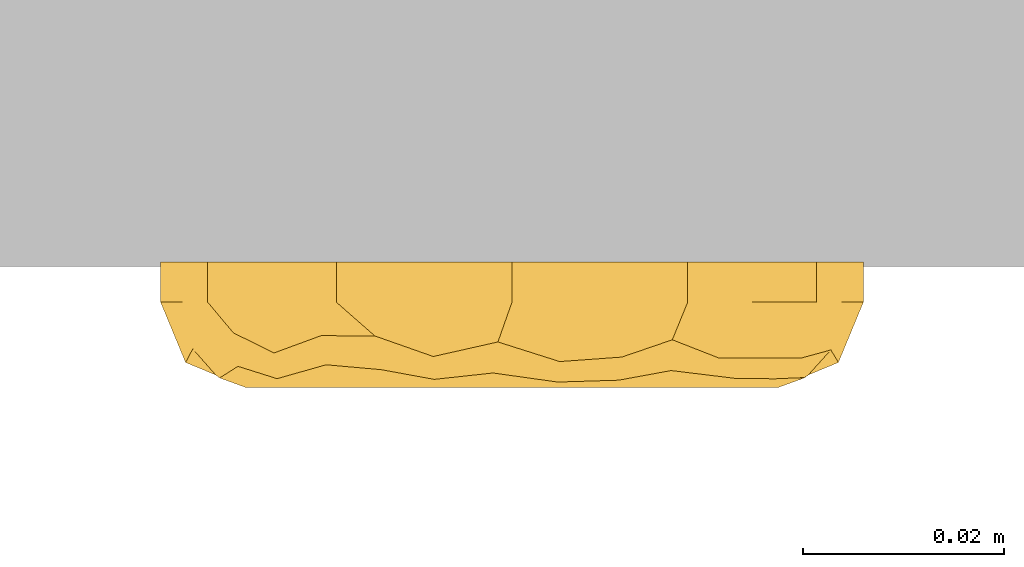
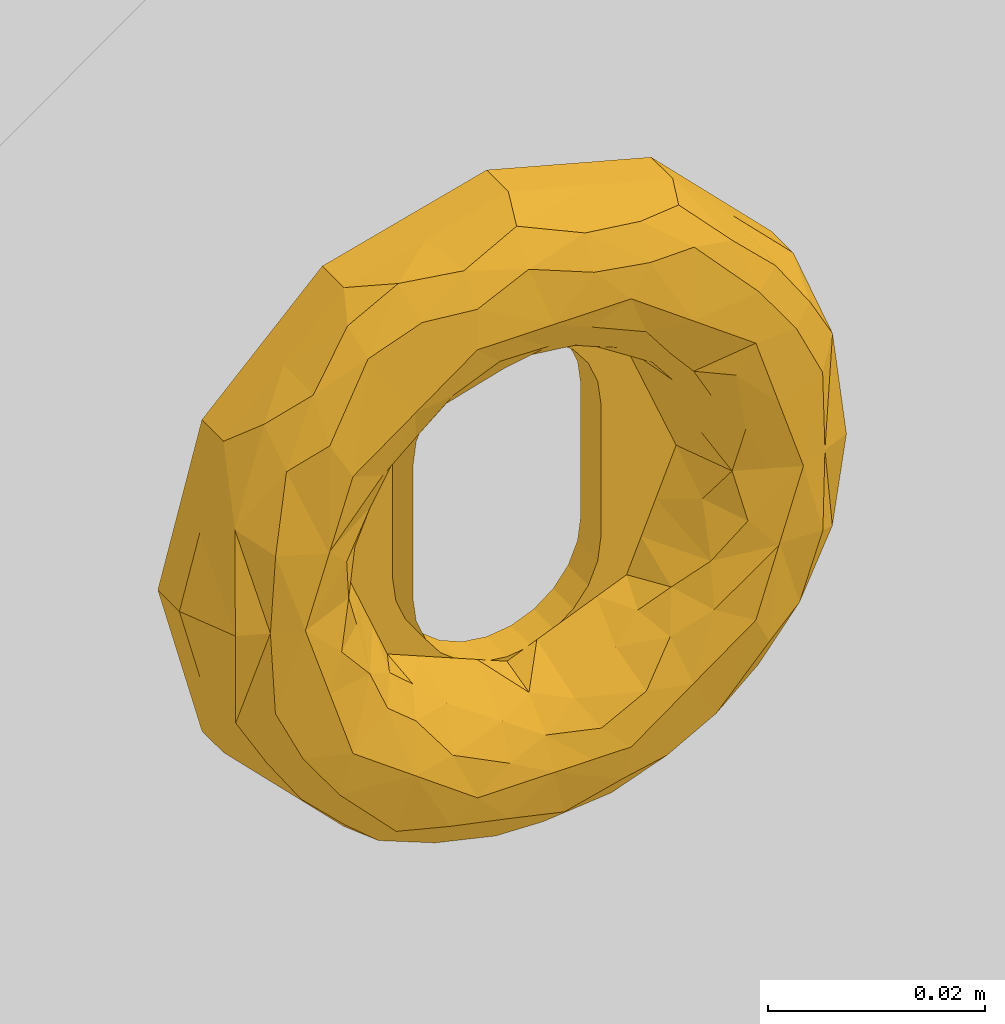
# One storey, part 2 of 2: 1 door.
"""IFC2X3 building model written with IfcOpenShell, lengths in feet."""

from ifc_helpers import new_model, entity, si_unit, converted_unit, derived_unit, direction, frame, origin, place, context, subcontext, project, spatial, face_set, surface_model, source, transform, mapped, type_object, type_shapes, element, save


model = new_model("IFC2X3")

# Units and contexts
model_context = context("Model", 3, precision=0.0001, world=origin(), true_north=direction((6.12303176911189e-17, 1.0)))
body_context = subcontext(model_context, "Body", "Model", "MODEL_VIEW")
ifc_project = project(units=[converted_unit("LENGTHUNIT", "FOOT", entity("IfcRatioMeasure", 0.3048), si_unit("LENGTHUNIT", "METRE"), dimensions=[1, 0, 0, 0, 0, 0, 0]), converted_unit("AREAUNIT", "SQUARE FOOT", entity("IfcRatioMeasure", 0.09290304), si_unit("AREAUNIT", "SQUARE_METRE"), dimensions=[2, 0, 0, 0, 0, 0, 0]), converted_unit("VOLUMEUNIT", "CUBIC FOOT", entity("IfcRatioMeasure", 0.028316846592), si_unit("VOLUMEUNIT", "CUBIC_METRE"), dimensions=[3, 0, 0, 0, 0, 0, 0]), converted_unit("PLANEANGLEUNIT", "DEGREE", entity("IfcRatioMeasure", 0.0174532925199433), si_unit("PLANEANGLEUNIT", "RADIAN"), dimensions=[0, 0, 0, 0, 0, 0, 0]), si_unit("MASSUNIT", "GRAM", prefix="KILO"), derived_unit("MASSDENSITYUNIT", [(si_unit("MASSUNIT", "GRAM", prefix="KILO"), 1), (si_unit("LENGTHUNIT", "METRE"), -3)]), si_unit("TIMEUNIT", "SECOND"), si_unit("FREQUENCYUNIT", "HERTZ"), si_unit("THERMODYNAMICTEMPERATUREUNIT", "DEGREE_CELSIUS"), derived_unit("THERMALTRANSMITTANCEUNIT", [(si_unit("MASSUNIT", "GRAM", prefix="KILO"), 1), (si_unit("THERMODYNAMICTEMPERATUREUNIT", "KELVIN"), -1), (si_unit("TIMEUNIT", "SECOND"), -3)]), derived_unit("VOLUMETRICFLOWRATEUNIT", [(si_unit("LENGTHUNIT", "METRE"), 3), (si_unit("TIMEUNIT", "SECOND"), -1)]), si_unit("ELECTRICCURRENTUNIT", "AMPERE"), si_unit("ELECTRICVOLTAGEUNIT", "VOLT"), si_unit("POWERUNIT", "WATT"), si_unit("FORCEUNIT", "NEWTON"), si_unit("ILLUMINANCEUNIT", "LUX"), si_unit("LUMINOUSFLUXUNIT", "LUMEN"), si_unit("LUMINOUSINTENSITYUNIT", "CANDELA"), derived_unit("USERDEFINED", [(si_unit("MASSUNIT", "GRAM", prefix="KILO"), -1), (si_unit("LENGTHUNIT", "METRE"), -2), (si_unit("TIMEUNIT", "SECOND"), 3), (si_unit("LUMINOUSFLUXUNIT", "LUMEN"), 1)]), derived_unit("LINEARVELOCITYUNIT", [(si_unit("LENGTHUNIT", "METRE"), 1), (si_unit("TIMEUNIT", "SECOND"), -1)]), si_unit("PRESSUREUNIT", "PASCAL"), derived_unit("USERDEFINED", [(si_unit("LENGTHUNIT", "METRE"), -2), (si_unit("MASSUNIT", "GRAM", prefix="KILO"), 1), (si_unit("TIMEUNIT", "SECOND"), -2)])], contexts=[model_context])

# Site, building, storey
site_placement = place(None, origin())
site = spatial("IfcSite", under=ifc_project, at=site_placement, Name="Default", CompositionType="ELEMENT")
building_placement = place(site_placement, origin())
building = spatial("IfcBuilding", under=site, at=building_placement, CompositionType="ELEMENT")
storey_placement = place(building_placement, origin())
storey = spatial("IfcBuildingStorey", under=building, at=storey_placement, Name="Level 1", CompositionType="ELEMENT", Elevation=0.0)

# Door
door_style = type_object("IfcDoorStyle", Name="dline_Hardware_TomDixonCollection_Escutcheons_Oval_Half_Solid_3.25", ConstructionType="NOTDEFINED", OperationType="DOUBLE_SWING_RIGHT", ParameterTakesPrecedence=False, Sizeable=False)
shared_shape = source(origin(), body_context, "Body", "SurfaceModel", [
    surface_model("IfcFaceBasedSurfaceModel", [(-0.114829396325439, 0.0, -0.00161922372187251), (-0.0994451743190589, 0.0574146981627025, -0.00161922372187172), (-0.0574146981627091, 0.0994451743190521, -0.00161922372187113), (0.0, 0.114829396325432, -0.00161922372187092), (0.0574146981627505, 0.099445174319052, -0.00161922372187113), (0.0994451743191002, 0.0574146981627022, -0.00161922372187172), (0.11482939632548, 0.0, -0.00161922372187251), (0.0328083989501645, 0.0, -0.00161922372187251), (0.0328083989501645, 0.0246062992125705, -0.00161922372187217), (0.0316904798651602, 0.0330977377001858, -0.00161922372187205), (0.0284129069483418, 0.041010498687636, -0.00161922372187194), (0.0231990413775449, 0.0478053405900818, -0.00161922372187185), (0.0164041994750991, 0.0530192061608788, -0.00161922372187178), (0.00849143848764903, 0.0562967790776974, -0.00161922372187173), (0.0, 0.0574146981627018, -0.00161922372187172), (-0.00849143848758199, 0.0562967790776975, -0.00161922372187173), (-0.0164041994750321, 0.053019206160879, -0.00161922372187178), (-0.0231990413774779, 0.047805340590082, -0.00161922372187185), (-0.0284129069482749, 0.0410104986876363, -0.00161922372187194), (-0.0316904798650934, 0.0330977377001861, -0.00161922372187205), (-0.0328083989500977, 0.0246062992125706, -0.00161922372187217), (-0.0328083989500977, 0.0, -0.00161922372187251), (0.0994451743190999, -0.0574146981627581, -0.0016192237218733), (0.0574146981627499, -0.0994451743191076, -0.00161922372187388), (0.0, -0.114829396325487, -0.0016192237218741), (-0.0574146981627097, -0.099445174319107, -0.00161922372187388), (-0.0994451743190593, -0.0574146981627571, -0.0016192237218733), (-0.0328083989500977, -0.0246062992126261, -0.00161922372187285), (-0.0316904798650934, -0.0330977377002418, -0.00161922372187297), (-0.0284129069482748, -0.0410104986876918, -0.00161922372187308), (-0.0231990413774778, -0.0478053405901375, -0.00161922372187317), (-0.0164041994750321, -0.0530192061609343, -0.00161922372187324), (-0.00849143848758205, -0.0562967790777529, -0.00161922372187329), (0.0, -0.0574146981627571, -0.0016192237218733), (0.00849143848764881, -0.0562967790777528, -0.00161922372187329), (0.0164041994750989, -0.0530192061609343, -0.00161922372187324), (0.0231990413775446, -0.0478053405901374, -0.00161922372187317), (0.0284129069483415, -0.0410104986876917, -0.00161922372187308), (0.0316904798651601, -0.0330977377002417, -0.00161922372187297), (0.0328083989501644, -0.0246062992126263, -0.00161922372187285), (0.103991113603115, 0.0404490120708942, 0.0114829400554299), (0.107137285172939, 0.0287073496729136, -0.0016192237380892), (0.109410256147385, 0.0202245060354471, 0.0114829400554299), (-0.107137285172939, 0.0287073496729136, 0.0114829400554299), (-0.0994451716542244, 0.0574146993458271, 0.0114829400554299), (-0.107137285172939, 0.0287073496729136, -0.0016192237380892), (0.0784299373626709, 0.0784299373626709, 0.0114829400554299), (0.0994451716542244, 0.0574146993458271, 0.0114829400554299), (0.0784299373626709, 0.0784299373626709, -0.0016192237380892), (0.114829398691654, 0.0, 0.0114829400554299), (0.0574146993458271, 0.0994451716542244, 0.0114829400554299), (0.0287073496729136, 0.107137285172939, -0.0016192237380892), (0.0, 0.114829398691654, 0.0114829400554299), (0.0287073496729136, 0.107137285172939, 0.0114829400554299), (-0.0287073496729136, 0.107137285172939, 0.0114829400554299), (-0.0287073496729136, 0.107137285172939, -0.0016192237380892), (-0.0784299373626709, 0.0784299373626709, -0.0016192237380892), (-0.0784299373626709, 0.0784299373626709, 0.0114829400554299), (-0.0574146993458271, 0.0994451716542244, 0.0114829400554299), (-0.114829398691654, 0.0, 0.0114829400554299), (-0.103991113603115, -0.0404490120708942, 0.0114829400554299), (-0.107137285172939, -0.0287073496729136, -0.0016192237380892), (-0.109410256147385, -0.0202245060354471, 0.0114829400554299), (0.107137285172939, -0.0287073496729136, 0.0114829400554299), (0.0994451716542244, -0.0574146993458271, 0.0114829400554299), (0.107137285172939, -0.0287073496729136, -0.0016192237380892), (-0.0784299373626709, -0.0784299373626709, 0.0114829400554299), (-0.0994451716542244, -0.0574146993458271, 0.0114829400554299), (-0.0784299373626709, -0.0784299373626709, -0.0016192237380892), (-0.0574146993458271, -0.0994451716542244, 0.0114829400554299), (-0.0287073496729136, -0.107137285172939, -0.0016192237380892), (0.0, -0.114829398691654, 0.0114829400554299), (-0.0287073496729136, -0.107137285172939, 0.0114829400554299), (0.0287073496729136, -0.107137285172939, 0.0114829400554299), (0.0287073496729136, -0.107137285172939, -0.0016192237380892), (0.0784299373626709, -0.0784299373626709, -0.0016192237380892), (0.0784299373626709, -0.0784299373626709, 0.0114829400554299), (0.0574146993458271, -0.0994451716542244, 0.0114829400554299), (0.104185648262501, 0.0354321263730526, 0.0271007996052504), (0.10769384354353, 0.0266302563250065, 0.0114829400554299), (-0.00460470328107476, 0.111512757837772, 0.0244946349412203), (-0.0257417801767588, 0.105345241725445, 0.029240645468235), (-0.00619756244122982, 0.102307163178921, 0.0346305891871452), (0.0358880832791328, 0.102162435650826, 0.0294351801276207), (0.0155927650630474, 0.105819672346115, 0.0308965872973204), (0.095525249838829, 0.0295866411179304, 0.0361229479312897), (0.0948657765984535, 0.0518237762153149, 0.0296521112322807), (0.086100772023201, 0.0492820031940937, 0.0365281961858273), (-0.0607702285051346, 0.086708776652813, 0.0319500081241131), (-0.0427446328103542, 0.0948088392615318, 0.0335454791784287), (-0.0447977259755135, 0.103246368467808, 0.0225341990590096), (0.106661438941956, 0.0, 0.0312021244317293), (0.0676873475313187, 0.0841498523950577, 0.0297723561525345), (0.0520024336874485, 0.0896197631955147, 0.0338375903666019), (0.0733057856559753, 0.0671199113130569, 0.0364366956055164), (0.0703377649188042, 0.051103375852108, 0.0393700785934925), (0.0523817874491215, 0.0989614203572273, 0.0237841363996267), (0.0348720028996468, 0.0918425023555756, 0.036979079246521), (-0.0623906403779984, 0.093721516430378, 0.0224341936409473), (0.0968018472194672, 0.0, 0.0352861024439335), (0.0486022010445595, 0.0668951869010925, 0.0393700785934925), (-0.104311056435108, 0.0357333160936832, 0.026776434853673), (-0.0895434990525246, 0.0554412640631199, 0.0324601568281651), (-0.0910296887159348, 0.0668764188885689, 0.021533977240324), (-0.0253979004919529, 0.0954931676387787, 0.0367174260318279), (-0.0486022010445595, 0.0668951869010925, 0.0393700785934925), (-0.0777445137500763, 0.0769081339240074, 0.0280735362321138), (-0.0767557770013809, 0.0629682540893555, 0.0364925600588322), (-0.0955414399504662, 0.0286489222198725, 0.0362579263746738), (-0.0968018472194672, 0.0, 0.0352861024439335), (-0.10769384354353, 0.0266302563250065, 0.0114829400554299), (-0.106661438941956, 0.0, 0.0312021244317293), (0.0149465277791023, 0.0955802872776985, 0.0375915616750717), (-0.0786400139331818, 0.025551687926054, 0.0393700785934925), (-0.0869422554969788, 0.0, 0.0393700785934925), (0.0869422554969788, 0.0, 0.0393700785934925), (0.0786400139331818, 0.025551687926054, 0.0393700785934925), (0.0827525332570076, 0.069546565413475, 0.0296548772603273), (0.0268666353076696, 0.0826869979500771, 0.0393700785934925), (0.0, 0.0826869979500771, 0.0393700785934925), (-0.0703377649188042, 0.051103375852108, 0.0393700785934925), (-0.0268666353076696, 0.0826869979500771, 0.0393700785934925), (-0.104185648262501, -0.0354321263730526, 0.0271007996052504), (-0.10769384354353, -0.0266302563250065, 0.0114829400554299), (0.0895434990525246, -0.0554412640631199, 0.0324601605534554), (0.0786400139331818, -0.025551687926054, 0.0393700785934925), (0.0767557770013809, -0.0629682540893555, 0.0364925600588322), (0.10769384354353, -0.0266302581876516, 0.0114829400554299), (0.104311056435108, -0.0357333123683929, 0.026776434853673), (-0.095525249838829, -0.0295866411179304, 0.0361229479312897), (-0.0948657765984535, -0.0518237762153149, 0.0296521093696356), (-0.086100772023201, -0.0492820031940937, 0.0365281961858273), (-0.0486022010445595, -0.0668951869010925, 0.0393700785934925), (-0.0703377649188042, -0.051103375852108, 0.0393700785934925), (-0.0733057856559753, -0.0671199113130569, 0.0364366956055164), (-0.0358880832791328, -0.102162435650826, 0.0294351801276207), (-0.0155927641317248, -0.105819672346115, 0.0308965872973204), (-0.0676873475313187, -0.0841498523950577, 0.0297723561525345), (-0.0520024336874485, -0.0896197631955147, 0.0338375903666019), (-0.0348720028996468, -0.0918425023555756, 0.036979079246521), (0.00460470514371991, -0.111512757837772, 0.0244946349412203), (0.0910296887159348, -0.0668764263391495, 0.021533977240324), (0.0607702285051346, -0.0867087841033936, 0.0319500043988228), (0.0447977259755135, -0.103246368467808, 0.0225341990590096), (0.0623906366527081, -0.093721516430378, 0.0224341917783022), (0.0427446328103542, -0.0948088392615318, 0.0335454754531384), (0.025397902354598, -0.0954931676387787, 0.0367174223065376), (0.0257417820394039, -0.105345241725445, 0.0292406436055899), (0.0777445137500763, -0.0769081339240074, 0.0280735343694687), (0.0955414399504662, -0.0286489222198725, 0.0362579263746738), (0.00619756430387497, -0.102307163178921, 0.0346305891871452), (-0.0149465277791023, -0.0955802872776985, 0.0375915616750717), (0.0486022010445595, -0.0668951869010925, 0.0393700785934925), (-0.0523817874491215, -0.0989614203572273, 0.0237841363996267), (-0.0786400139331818, -0.025551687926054, 0.0393700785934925), (-0.0827525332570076, -0.069546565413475, 0.0296548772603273), (-0.0268666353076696, -0.0826869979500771, 0.0393700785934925), (0.0, -0.0826869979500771, 0.0393700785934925), (0.0703377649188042, -0.051103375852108, 0.0393700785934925), (0.0268666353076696, -0.0826869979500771, 0.0393700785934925), (0.0595088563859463, 0.030643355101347, 0.0309099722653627), (0.0784134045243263, 0.0262491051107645, 0.0393700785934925), (0.0484802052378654, 0.0383875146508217, 0.0236265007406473), (0.044356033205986, 0.052351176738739, 0.0325026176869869), (0.0548929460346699, 0.0432777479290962, 0.0335578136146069), (-0.0606496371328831, 0.0123952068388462, 0.0237607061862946), (-0.0519581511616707, 0.0171627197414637, 0.0106627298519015), (-0.0590671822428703, 0.0, 0.0106627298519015), (0.0724360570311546, 0.0148040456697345, 0.0361499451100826), (0.06114686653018, 0.0148187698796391, 0.0256418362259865), (0.0669351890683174, 0.0, 0.0309099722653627), (0.0590671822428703, 0.0, 0.0106627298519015), (-0.0104417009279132, 0.0547420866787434, 0.0106627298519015), (-0.0208834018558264, 0.0504169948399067, 0.0106627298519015), (-0.0123898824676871, 0.0651603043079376, 0.0302642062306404), (0.0519581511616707, 0.0171627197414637, 0.0106627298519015), (0.0337963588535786, 0.0663290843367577, 0.0364119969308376), (-0.0578487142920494, 0.0450543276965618, 0.0358186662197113), (-0.0784134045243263, 0.0262491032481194, 0.0393700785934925), (0.0468624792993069, 0.0294647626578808, 0.0106627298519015), (-0.0595088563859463, 0.030643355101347, 0.0309099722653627), (-0.0700549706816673, 0.0169776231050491, 0.035081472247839), (-0.0337963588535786, 0.0663290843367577, 0.0364119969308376), (-0.029567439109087, 0.055287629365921, 0.0252624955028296), (-0.0669351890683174, 0.0, 0.0309099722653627), (-0.044356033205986, 0.052351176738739, 0.0325026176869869), (-0.0487650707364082, 0.039685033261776, 0.025566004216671), (0.0417668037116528, 0.0417668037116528, 0.0106627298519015), (0.0394373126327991, 0.0467448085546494, 0.0221082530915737), (0.0143742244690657, 0.0754772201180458, 0.0374735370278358), (0.0295674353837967, 0.0552876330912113, 0.0252624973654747), (0.0208834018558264, 0.0504169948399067, 0.0106627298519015), (0.0129081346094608, 0.0648935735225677, 0.030083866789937), (-0.0313251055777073, 0.0460918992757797, 0.0106627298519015), (-0.0390795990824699, 0.0469961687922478, 0.0220180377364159), (0.000194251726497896, 0.0621994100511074, 0.0243475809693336), (0.000380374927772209, 0.0715737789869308, 0.0347538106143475), (-0.017739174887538, 0.0738889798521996, 0.0371287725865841), (-0.0134333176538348, 0.0826869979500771, 0.0393700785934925), (0.0104417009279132, 0.0547420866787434, 0.0106627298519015), (0.0313251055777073, 0.0460918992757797, 0.0106627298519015), (-0.0417668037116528, 0.0417668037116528, 0.0106627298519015), (-0.0468624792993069, 0.0294647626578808, 0.0106627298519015), (0.0, 0.0590671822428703, 0.0106627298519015), (-0.0784134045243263, -0.0262491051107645, 0.0393700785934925), (-0.0695305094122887, -0.0168505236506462, 0.0347329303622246), (-0.0647844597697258, -0.0398912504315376, 0.0371681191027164), (-0.0295674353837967, -0.0552876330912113, 0.0252624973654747), (-0.0435471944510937, -0.0435946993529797, 0.0231622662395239), (-0.0313251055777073, -0.0460918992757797, 0.0106627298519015), (-0.0208834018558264, -0.0504169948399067, 0.0106627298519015), (-0.0129081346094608, -0.0648935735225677, 0.0300838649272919), (-0.0443560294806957, -0.0523511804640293, 0.0325026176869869), (-0.0530390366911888, -0.042167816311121, 0.0317237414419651), (-0.0743755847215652, -0.0386762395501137, 0.0393700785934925), (-0.0417668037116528, -0.0417668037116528, 0.0106627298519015), (-0.0510150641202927, -0.0340855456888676, 0.0225713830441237), (0.0606496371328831, -0.0123952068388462, 0.0237607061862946), (0.0519581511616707, -0.0171627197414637, 0.0106627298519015), (-0.0337963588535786, -0.0663290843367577, 0.0364119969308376), (0.044356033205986, -0.052351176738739, 0.0325026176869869), (0.0337963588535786, -0.0663290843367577, 0.0364119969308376), (0.0578487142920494, -0.0450543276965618, 0.0358186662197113), (0.0784134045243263, -0.0262491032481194, 0.0393700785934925), (0.0595088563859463, -0.030643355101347, 0.0309099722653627), (0.0700549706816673, -0.0169776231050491, 0.035081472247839), (-0.060554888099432, -0.0119150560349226, 0.0233710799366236), (0.0123898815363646, -0.0651603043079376, 0.0302642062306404), (0.0295674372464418, -0.055287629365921, 0.0252624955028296), (-0.0776933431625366, 0.0, 0.0354591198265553), (0.0487650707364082, -0.039685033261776, 0.0255660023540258), (-0.0143742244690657, -0.0754772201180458, 0.0374735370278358), (0.0104417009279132, -0.0547420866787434, 0.0106627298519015), (0.0208834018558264, -0.0504169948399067, 0.0106627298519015), (0.0313251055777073, -0.0460918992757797, 0.0106627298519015), (0.0390795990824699, -0.0469961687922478, 0.0220180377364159), (-0.000194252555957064, -0.0621994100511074, 0.0243475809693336), (-0.000380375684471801, -0.0715737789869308, 0.0347538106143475), (0.017739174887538, -0.0738889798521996, 0.0371287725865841), (0.0134333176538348, -0.0826869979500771, 0.0393700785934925), (-0.0104417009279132, -0.0547420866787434, 0.0106627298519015), (-0.0519581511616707, -0.0171627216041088, 0.0106627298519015), (-0.059508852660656, -0.0306433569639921, 0.0309099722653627), (-0.0468624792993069, -0.0294647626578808, 0.0106627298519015), (0.0417668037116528, -0.0417668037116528, 0.0106627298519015), (0.0468624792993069, -0.0294647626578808, 0.0106627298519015), (0.0, -0.0590671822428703, 0.0106627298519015), (0.0328083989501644, 0.0, 0.0106627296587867), (0.0328083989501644, 0.0246062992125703, 0.010662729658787), (0.0316904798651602, 0.0330977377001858, 0.0106627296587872), (0.0284129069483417, 0.0410104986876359, 0.0106627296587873), (0.0231990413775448, 0.0478053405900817, 0.0106627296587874), (0.0164041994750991, 0.0530192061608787, 0.0106627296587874), (0.008491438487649, 0.0562967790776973, 0.0106627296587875), (0.0, 0.0574146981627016, 0.0106627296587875), (-0.00849143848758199, 0.0562967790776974, 0.0106627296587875), (-0.0164041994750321, 0.0530192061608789, 0.0106627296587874), (-0.0231990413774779, 0.0478053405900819, 0.0106627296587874), (-0.0284129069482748, 0.0410104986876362, 0.0106627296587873), (-0.0316904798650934, 0.0330977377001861, 0.0106627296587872), (-0.0328083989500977, 0.0246062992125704, 0.010662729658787), (-0.0328083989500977, 0.0, 0.0106627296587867), (-0.0328083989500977, -0.0246062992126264, 0.0106627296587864), (-0.0316904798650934, -0.0330977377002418, 0.0106627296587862), (-0.0284129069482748, -0.0410104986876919, 0.0106627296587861), (-0.0231990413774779, -0.0478053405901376, 0.010662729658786), (-0.0164041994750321, -0.0530192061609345, 0.010662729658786), (-0.00849143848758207, -0.056296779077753, 0.0106627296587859), (0.0, -0.0574146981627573, 0.0106627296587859), (0.00849143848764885, -0.056296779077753, 0.0106627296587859), (0.0164041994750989, -0.0530192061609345, 0.010662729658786), (0.0231990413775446, -0.0478053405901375, 0.010662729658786), (0.0284129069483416, -0.0410104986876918, 0.0106627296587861), (0.0316904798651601, -0.0330977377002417, 0.0106627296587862), (0.0328083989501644, -0.0246062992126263, 0.0106627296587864)], [face_set([[[0, 1, 2, 3, 4, 5, 6, 7, 8, 9, 10, 11, 12, 13, 14, 15, 16, 17, 18, 19, 20, 21]], [[6, 22, 23, 24, 25, 26, 0, 21, 27, 28, 29, 30, 31, 32, 33, 34, 35, 36, 37, 38, 39, 7]], [[5, 40, 41]], [[41, 40, 42]], [[43, 44, 1, 45]], [[46, 47, 5, 48]], [[6, 41, 42]], [[42, 49, 6]], [[50, 46, 48, 4]], [[51, 3, 52, 53]], [[5, 47, 40]], [[4, 51, 53, 50]], [[54, 52, 3, 55]], [[56, 1, 44, 57]], [[2, 56, 57, 58]], [[45, 0, 59, 43]], [[55, 2, 58, 54]], [[26, 60, 61]], [[61, 60, 62]], [[63, 64, 22, 65]], [[66, 67, 26, 68]], [[0, 61, 62]], [[62, 59, 0]], [[69, 66, 68, 25]], [[70, 24, 71, 72]], [[26, 67, 60]], [[25, 70, 72, 69]], [[73, 71, 24, 74]], [[75, 22, 64, 76]], [[23, 75, 76, 77]], [[65, 6, 49, 63]], [[74, 23, 77, 73]], [[47, 78, 79]], [[80, 81, 82]], [[83, 53, 84]], [[85, 86, 87]], [[88, 89, 90]], [[78, 91, 79]], [[92, 93, 94]], [[78, 86, 85]], [[87, 94, 95]], [[96, 93, 92]], [[93, 83, 97]], [[80, 54, 81]], [[80, 84, 53]], [[91, 49, 79]], [[90, 98, 88]], [[85, 99, 78]], [[100, 95, 94]], [[101, 102, 103]], [[86, 47, 46]], [[89, 104, 81]], [[104, 89, 105]], [[106, 107, 88]], [[108, 101, 109]], [[50, 92, 46]], [[110, 111, 101]], [[84, 112, 97]], [[102, 113, 107]], [[44, 103, 57]], [[101, 44, 110]], [[110, 59, 111]], [[109, 114, 108]], [[99, 85, 115]], [[99, 91, 78]], [[47, 86, 78]], [[87, 95, 116]], [[116, 115, 85]], [[87, 86, 117]], [[87, 117, 94]], [[85, 87, 116]], [[92, 94, 117]], [[100, 94, 93]], [[92, 117, 46]], [[96, 92, 50]], [[52, 80, 53]], [[83, 93, 96]], [[96, 50, 53]], [[53, 83, 96]], [[97, 100, 93]], [[112, 84, 82]], [[84, 97, 83]], [[100, 97, 118]], [[104, 119, 82]], [[118, 97, 112]], [[119, 118, 112]], [[104, 82, 81]], [[119, 112, 82]], [[84, 80, 82]], [[58, 90, 54]], [[88, 120, 105]], [[119, 104, 121]], [[89, 81, 90]], [[121, 104, 105]], [[105, 89, 88]], [[80, 52, 54]], [[54, 90, 81]], [[90, 58, 98]], [[103, 102, 106]], [[106, 88, 98]], [[98, 58, 57]], [[57, 106, 98]], [[107, 106, 102]], [[57, 103, 106]], [[101, 103, 44]], [[86, 46, 117]], [[88, 107, 120]], [[102, 108, 113]], [[113, 120, 107]], [[101, 111, 109]], [[113, 108, 114]], [[101, 108, 102]], [[67, 122, 123]], [[124, 125, 126]], [[127, 91, 128]], [[129, 130, 131]], [[132, 133, 134]], [[122, 111, 123]], [[135, 72, 136]], [[122, 130, 129]], [[131, 134, 133]], [[137, 138, 134]], [[138, 135, 139]], [[130, 67, 66]], [[140, 136, 72]], [[129, 109, 122]], [[128, 124, 141]], [[111, 59, 123]], [[64, 141, 76]], [[142, 143, 144]], [[69, 137, 66]], [[145, 146, 147]], [[140, 73, 147]], [[148, 126, 142]], [[149, 128, 99]], [[140, 147, 150]], [[142, 145, 143]], [[136, 151, 139]], [[146, 145, 152]], [[153, 138, 137]], [[128, 64, 127]], [[127, 49, 91]], [[99, 115, 149]], [[109, 129, 114]], [[109, 111, 122]], [[67, 130, 122]], [[131, 133, 154]], [[154, 114, 129]], [[131, 130, 155]], [[131, 155, 134]], [[129, 131, 154]], [[137, 134, 155]], [[132, 134, 138]], [[137, 155, 66]], [[153, 137, 69]], [[71, 140, 72]], [[135, 138, 153]], [[153, 69, 72]], [[72, 135, 153]], [[139, 132, 138]], [[151, 136, 150]], [[136, 139, 135]], [[132, 139, 156]], [[146, 157, 150]], [[156, 139, 151]], [[157, 156, 151]], [[146, 150, 147]], [[157, 151, 150]], [[136, 140, 150]], [[77, 143, 73]], [[142, 158, 152]], [[157, 146, 159]], [[145, 147, 143]], [[159, 146, 152]], [[152, 145, 142]], [[140, 71, 73]], [[73, 143, 147]], [[143, 77, 144]], [[141, 124, 148]], [[148, 142, 144]], [[144, 77, 76]], [[76, 148, 144]], [[126, 148, 124]], [[76, 141, 148]], [[128, 141, 64]], [[130, 66, 155]], [[142, 126, 158]], [[124, 149, 125]], [[125, 158, 126]], [[128, 91, 99]], [[125, 149, 115]], [[128, 149, 124]], [[160, 95, 161]], [[162, 163, 164]], [[160, 162, 164]], [[165, 166, 167]], [[160, 168, 169]], [[170, 171, 169]], [[172, 173, 174]], [[175, 160, 169]], [[176, 100, 163]], [[163, 100, 164]], [[177, 178, 120]], [[160, 179, 162]], [[180, 166, 165]], [[181, 180, 165]], [[178, 177, 180]], [[182, 174, 183]], [[181, 184, 114]], [[185, 186, 177]], [[178, 180, 181]], [[168, 161, 115]], [[187, 188, 162]], [[189, 176, 118]], [[185, 105, 182]], [[190, 191, 192]], [[183, 193, 194]], [[163, 190, 176]], [[195, 174, 196]], [[105, 121, 182]], [[195, 172, 174]], [[196, 119, 189]], [[196, 197, 198]], [[118, 100, 176]], [[192, 199, 195]], [[176, 190, 192]], [[188, 200, 190]], [[185, 182, 183]], [[105, 177, 120]], [[197, 174, 182]], [[186, 185, 194]], [[187, 162, 179]], [[160, 175, 179]], [[163, 162, 188]], [[164, 95, 160]], [[95, 164, 100]], [[188, 190, 163]], [[175, 169, 171]], [[191, 190, 200]], [[188, 187, 200]], [[170, 169, 168]], [[170, 168, 115]], [[161, 168, 160]], [[178, 181, 114]], [[184, 181, 165]], [[184, 165, 167]], [[201, 202, 186]], [[202, 166, 180]], [[180, 177, 186]], [[185, 177, 105]], [[180, 186, 202]], [[201, 186, 194]], [[183, 173, 193]], [[194, 185, 183]], [[193, 201, 194]], [[203, 195, 199]], [[192, 191, 199]], [[192, 195, 196]], [[192, 196, 189]], [[198, 119, 196]], [[121, 198, 197]], [[121, 197, 182]], [[174, 197, 196]], [[192, 189, 176]], [[118, 189, 119]], [[183, 174, 173]], [[172, 195, 203]], [[204, 205, 206]], [[207, 208, 209]], [[207, 210, 211]], [[208, 212, 213]], [[133, 214, 206]], [[215, 208, 216]], [[217, 218, 171]], [[214, 204, 206]], [[219, 132, 212]], [[220, 152, 221]], [[222, 223, 158]], [[132, 133, 212]], [[224, 218, 217]], [[225, 224, 217]], [[205, 184, 226]], [[221, 227, 228]], [[204, 114, 229]], [[220, 230, 222]], [[223, 224, 225]], [[226, 184, 167]], [[225, 170, 115]], [[231, 219, 156]], [[232, 233, 227]], [[223, 222, 224]], [[228, 234, 235]], [[212, 207, 219]], [[236, 227, 237]], [[152, 159, 221]], [[236, 232, 227]], [[237, 157, 231]], [[237, 238, 239]], [[156, 132, 219]], [[211, 240, 236]], [[219, 207, 211]], [[208, 215, 209]], [[220, 221, 228]], [[152, 222, 158]], [[238, 227, 221]], [[230, 220, 235]], [[209, 210, 207]], [[229, 205, 204]], [[205, 229, 184]], [[241, 242, 226]], [[205, 226, 242]], [[241, 226, 167]], [[242, 213, 206]], [[212, 133, 213]], [[242, 206, 205]], [[206, 213, 133]], [[242, 216, 213]], [[212, 208, 207]], [[241, 216, 242]], [[243, 215, 216]], [[213, 216, 208]], [[243, 216, 241]], [[223, 225, 115]], [[170, 225, 217]], [[170, 217, 171]], [[244, 245, 230]], [[245, 218, 224]], [[224, 222, 230]], [[220, 222, 152]], [[224, 230, 245]], [[244, 230, 235]], [[228, 233, 234]], [[235, 220, 228]], [[234, 244, 235]], [[246, 236, 240]], [[211, 210, 240]], [[211, 236, 237]], [[211, 237, 231]], [[239, 157, 237]], [[159, 239, 238]], [[159, 238, 221]], [[227, 238, 237]], [[211, 231, 219]], [[156, 231, 157]], [[228, 227, 233]], [[232, 236, 246]], [[171, 247, 248, 249, 250, 251, 252, 253, 254, 255, 256, 257, 258, 259, 260, 261, 167, 201, 203, 187]], [[167, 261, 262, 263, 264, 265, 266, 267, 268, 269, 270, 271, 272, 273, 274, 247, 171, 244, 246, 215]], [[248, 247, 274, 39, 7, 8]], [[39, 274, 273, 38]], [[38, 273, 272, 37]], [[36, 271, 270, 35]], [[37, 272, 271, 36]], [[35, 270, 269, 34]], [[268, 33, 34, 269]], [[33, 268, 267, 32]], [[32, 267, 266, 31]], [[30, 265, 264, 29]], [[31, 266, 265, 30]], [[29, 264, 263, 28]], [[262, 27, 28, 263]], [[262, 261, 260, 20, 21, 27]], [[20, 260, 259, 19]], [[19, 259, 258, 18]], [[17, 257, 256, 16]], [[18, 258, 257, 17]], [[16, 256, 255, 15]], [[254, 14, 15, 255]], [[14, 254, 253, 13]], [[13, 253, 252, 12]], [[11, 251, 250, 10]], [[12, 252, 251, 11]], [[10, 250, 249, 9]], [[248, 8, 9, 249]]])]),
])
type_shapes(door_style, [shared_shape])
door_placement = place(storey_placement, frame((-3.60517387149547, 8.4557659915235, 3.64555762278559), z_axis=(0.0, -1.0, 0.0), x_axis=(-1.0, 0.0, 0.0)))
element("IfcDoor", 1, at=door_placement, inside=storey, type_object=door_style, Name="12.9005.02.060:dline_Hardware_TomDixonCollection_Escutcheons_Oval_Half_Solid_3.25", ObjectType="12.9005.02.060:dline_Hardware_TomDixonCollection_Escutcheons_Oval_Half_Solid_3.25", OverallHeight=0.402701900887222, OverallWidth=0.442913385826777, context=body_context, shape_type="MappedRepresentation", body=[
    mapped(shared_shape, transform((0.0, 0.0, 0.0), scale=1.0)),
])

save(model, "model.ifc")
